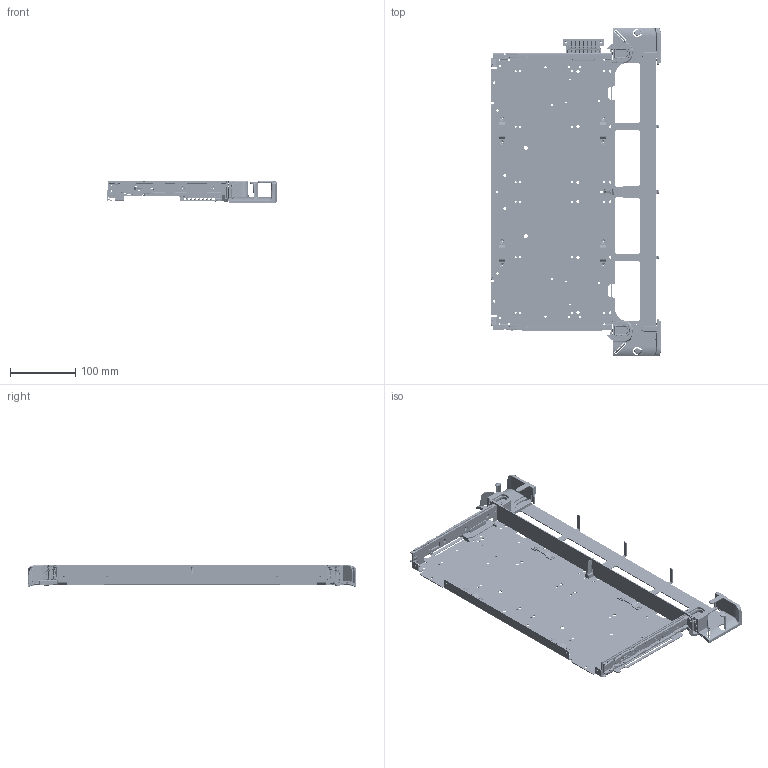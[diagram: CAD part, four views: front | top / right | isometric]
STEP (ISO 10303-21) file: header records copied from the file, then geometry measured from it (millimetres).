
FILE_DESCRIPTION(/* description */ (''),/* implementation_level */ '2;1');
FILE_NAME(/* name */ 'PRIME_FOU_Right.stp',/* time_stamp */ '2019-01-16T11:40:54+02:00',/* author */ (''),/* organization */ (''),/* preprocessor_version */ 'ST-DEVELOPER v16',/* originating_system */ 'SIEMENS PLM Software NX 11.0',/* authorisation */ '');
FILE_SCHEMA (('AUTOMOTIVE_DESIGN { 1 0 10303 214 3 1 1 1 }'));
Products named in the file (1): sata05000D84ew76
Bounding box: 261.4 x 504 x 34.1 mm (x, y, z)
Volume: 260968 mm3; surface area: 354604.2 mm2
Topology: 40 solids, 41 shells, 7803 faces, 19970 edges, 11818 vertices
Faces by surface type: cylinder 2993, plane 2431, bspline 1483, cone 475, sphere 238, torus 183
Full cylindrical faces by diameter (mm): 1.83 x18, 2 x1, 2.2 x9, 2.5 x10, 3 x24, 3.34 x8, 3.35 x22, 3.624 x4, 3.7 x39, 4.5 x2, 4.7 x6, 4.8 x12, 6.3 x6
Entity records: 253854 total; most frequent: CARTESIAN_POINT 71244, DIRECTION 38099, ORIENTED_EDGE 37946, EDGE_CURVE 18974, AXIS2_PLACEMENT_3D 14386, VERTEX_POINT 11708, LINE 9327, VECTOR 9327
